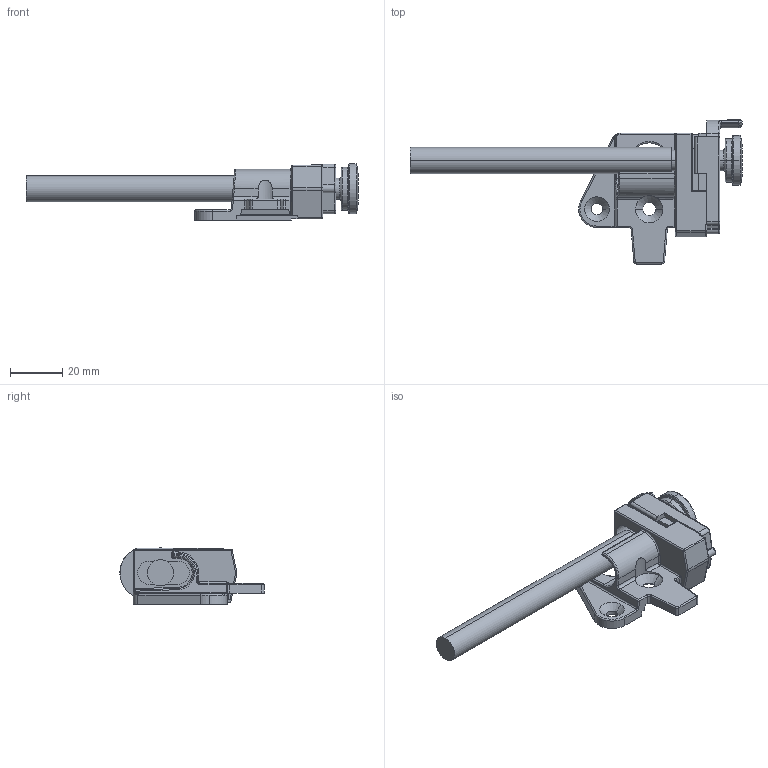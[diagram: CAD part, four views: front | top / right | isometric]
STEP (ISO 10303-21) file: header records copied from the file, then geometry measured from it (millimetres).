
FILE_DESCRIPTION (( 'STEP AP214' ), '1' );
FILE_NAME ('P600_Seitenstabilisator-links.STEP', '2010-02-04T07:31:17', ( 'Waldinger Reinhard' ), ( 'Grass GmbH' ), 'SwSTEP 2.0', 'SolidWorks 2009', '' );
FILE_SCHEMA (( 'AUTOMOTIVE_DESIGN' ));
Length unit declared in the file: millimetre
Products named in the file (1): P600_Seitenstabilisator-links
Bounding box: 127 x 55.08 x 21.55 mm (x, y, z)
Volume: 25469.3 mm3; surface area: 13100.5 mm2
Topology: 2 solids, 2 shells, 243 faces, 592 edges, 349 vertices
Faces by surface type: cylinder 102, plane 72, torus 36, bspline 15, sphere 10, cone 8
Entity records: 9077 total; most frequent: CARTESIAN_POINT 3377, DIRECTION 1233, ORIENTED_EDGE 1172, EDGE_CURVE 586, AXIS2_PLACEMENT_3D 468, VERTEX_POINT 348, LINE 297, VECTOR 297
